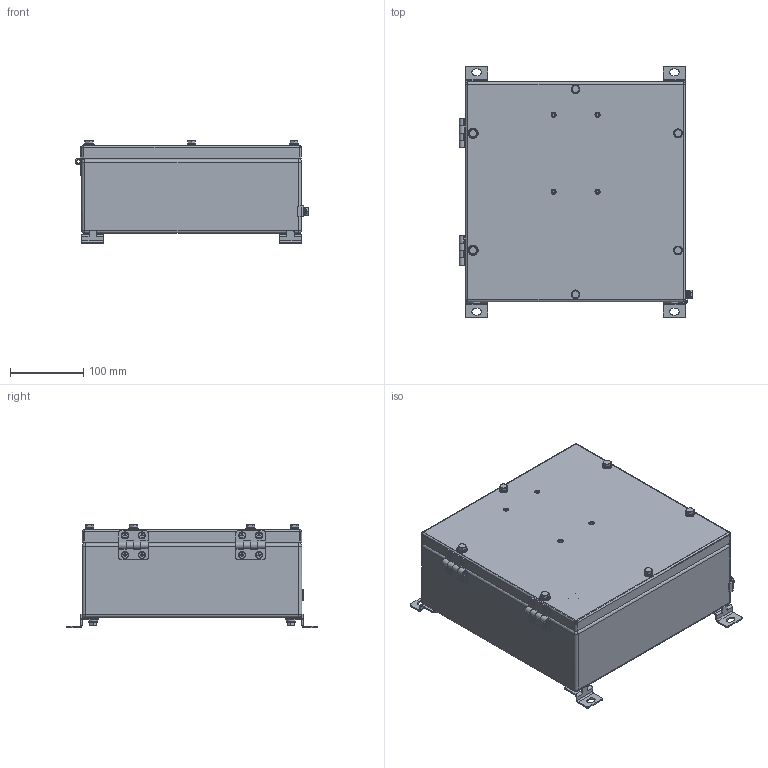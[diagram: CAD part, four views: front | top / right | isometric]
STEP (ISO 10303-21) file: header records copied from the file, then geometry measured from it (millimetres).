
FILE_DESCRIPTION((''),'2;1');
FILE_NAME('\\192.168.5.25\cortem_klient\INVENTOR БАЗА МОДЕЛЕЙ\Актуальная база моделей для отдела продаж\КСРВ-Н\КСРВ-Н303012_М5.stp','2019-04-09T14:11:27',('A.S.Kozlov'),(''),'Autodesk Inventor 2012','Autodesk Inventor 2012','');
FILE_SCHEMA(('CONFIG_CONTROL_DESIGN'));
Length unit declared in the file: millimetre
Products named in the file (1): КСРВ-(параметрическая модель)_Внешний контур_1
Bounding box: 319.19 x 344 x 141.2 mm (x, y, z)
Surface area: 468677.2 mm2 (no closed solid volume)
Topology: 0 solids, 92 shells, 364 faces, 1359 edges, 1007 vertices
Faces by surface type: plane 205, cylinder 145, sphere 12, cone 2
Full cylindrical faces by diameter (mm): 5 x4, 5.9 x6, 10 x4, 12 x14, 14 x2
Entity records: 14909 total; most frequent: CARTESIAN_POINT 2864, DIRECTION 2471, ORIENTED_EDGE 1862, EDGE_CURVE 1312, VERTEX_POINT 995, AXIS2_PLACEMENT_3D 890, VECTOR 691, LINE 691
